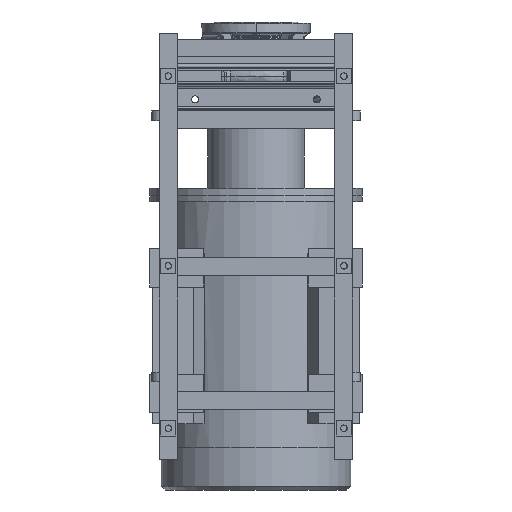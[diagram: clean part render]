
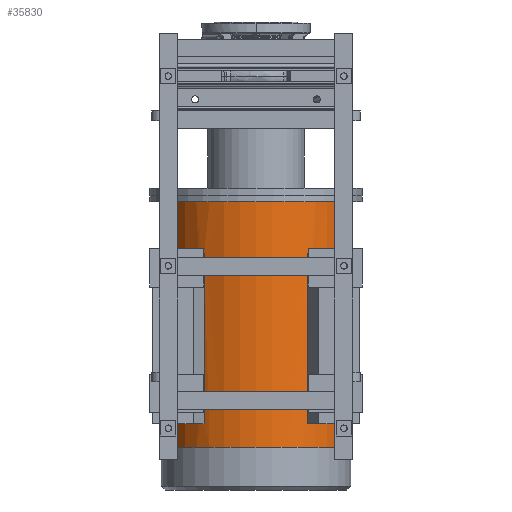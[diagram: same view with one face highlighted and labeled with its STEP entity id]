
A CAD part, front view. The second image highlights one B-rep face of the part: STEP entity #35830.
In plain terms, the highlighted cylindrical face has radius 240 mm (diameter 480 mm), a partial arc.
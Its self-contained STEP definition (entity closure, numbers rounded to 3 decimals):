
#1486 = DIRECTION ( 'NONE',  ( -1., 0., 0. ) ) ;
#2458 = CIRCLE ( 'NONE', #54440, 240. ) ;
#3269 = EDGE_CURVE ( 'NONE', #49336, #55333, #42335, .T. ) ;
#5260 = CARTESIAN_POINT ( 'NONE',  ( 0., 0., -898.5 ) ) ;
#5379 = CARTESIAN_POINT ( 'NONE',  ( -134.196, -198.976, -458.5 ) ) ;
#5531 = EDGE_CURVE ( 'NONE', #70357, #54059, #44890, .T. ) ;
#5630 = AXIS2_PLACEMENT_3D ( 'NONE', #46941, #11978, #72001 ) ;
#6897 = CARTESIAN_POINT ( 'NONE',  ( -240., 0., -324.5 ) ) ;
#7738 = AXIS2_PLACEMENT_3D ( 'NONE', #33796, #62828, #34291 ) ;
#8008 = ORIENTED_EDGE ( 'NONE', *, *, #41633, .T. ) ;
#8061 = ORIENTED_EDGE ( 'NONE', *, *, #49421, .F. ) ;
#8255 = DIRECTION ( 'NONE',  ( 0., 0., -1. ) ) ;
#8335 = AXIS2_PLACEMENT_3D ( 'NONE', #72209, #71458, #1486 ) ;
#9313 = CARTESIAN_POINT ( 'NONE',  ( -134.196, -198.976, -1069.5 ) ) ;
#10815 = CYLINDRICAL_SURFACE ( 'NONE', #66003, 240. ) ;
#11137 = DIRECTION ( 'NONE',  ( 1., 0., 0. ) ) ;
#11978 = DIRECTION ( 'NONE',  ( 0., 0., -1. ) ) ;
#12662 = LINE ( 'NONE', #34730, #67497 ) ;
#18171 = CARTESIAN_POINT ( 'NONE',  ( -148.813, -188.294, -898.5 ) ) ;
#18212 = DIRECTION ( 'NONE',  ( -1., 0., 0. ) ) ;
#18419 = AXIS2_PLACEMENT_3D ( 'NONE', #5260, #46069, #11137 ) ;
#19415 = CARTESIAN_POINT ( 'NONE',  ( -134.196, -198.976, -898.5 ) ) ;
#19623 = ORIENTED_EDGE ( 'NONE', *, *, #54055, .T. ) ;
#19705 = DIRECTION ( 'NONE',  ( 0., 0., -1. ) ) ;
#19932 = CARTESIAN_POINT ( 'NONE',  ( 240., 0., -1069.5 ) ) ;
#20719 = CARTESIAN_POINT ( 'NONE',  ( 0., 0., -1069.5 ) ) ;
#21725 = CARTESIAN_POINT ( 'NONE',  ( -240., 0., -958.5 ) ) ;
#22109 = CARTESIAN_POINT ( 'NONE',  ( 148.813, -188.294, -898.5 ) ) ;
#24323 = CARTESIAN_POINT ( 'NONE',  ( 0., 0., -458.5 ) ) ;
#24748 = VECTOR ( 'NONE', #8255, 1000. ) ;
#25930 = EDGE_CURVE ( 'NONE', #34497, #30008, #46975, .T. ) ;
#25931 = EDGE_CURVE ( 'NONE', #52547, #55333, #64476, .T. ) ;
#27040 = VECTOR ( 'NONE', #56863, 1000. ) ;
#27362 = ORIENTED_EDGE ( 'NONE', *, *, #57192, .F. ) ;
#28973 = AXIS2_PLACEMENT_3D ( 'NONE', #65618, #70423, #70920 ) ;
#30008 = VERTEX_POINT ( 'NONE', #22109 ) ;
#31899 = DIRECTION ( 'NONE',  ( 0., 0., 1. ) ) ;
#32806 = ORIENTED_EDGE ( 'NONE', *, *, #25930, .F. ) ;
#33122 = EDGE_CURVE ( 'NONE', #72869, #51264, #51235, .T. ) ;
#33796 = CARTESIAN_POINT ( 'NONE',  ( 0., 0., -898.5 ) ) ;
#33844 = CIRCLE ( 'NONE', #28973, 240. ) ;
#34291 = DIRECTION ( 'NONE',  ( -1., 0., 0. ) ) ;
#34497 = VERTEX_POINT ( 'NONE', #57560 ) ;
#34730 = CARTESIAN_POINT ( 'NONE',  ( 148.813, -188.294, -1069.5 ) ) ;
#34776 = LINE ( 'NONE', #19932, #24748 ) ;
#34967 = DIRECTION ( 'NONE',  ( 0., 0., -1. ) ) ;
#35830 = ADVANCED_FACE ( 'NONE', ( #72974, #41843, #54766 ), #10815, .T. ) ;
#40114 = CARTESIAN_POINT ( 'NONE',  ( 240., 0., -958.5 ) ) ;
#40115 = EDGE_LOOP ( 'NONE', ( #8061, #69732, #19623, #50588 ) ) ;
#40322 = ORIENTED_EDGE ( 'NONE', *, *, #25931, .T. ) ;
#41034 = ORIENTED_EDGE ( 'NONE', *, *, #57441, .T. ) ;
#41501 = CARTESIAN_POINT ( 'NONE',  ( -148.813, -188.294, -1069.5 ) ) ;
#41633 = EDGE_CURVE ( 'NONE', #75273, #58930, #2458, .T. ) ;
#41843 = FACE_BOUND ( 'NONE', #68613, .T. ) ;
#41879 = EDGE_LOOP ( 'NONE', ( #27362, #40322, #72256, #58114 ) ) ;
#42335 = LINE ( 'NONE', #41501, #61680 ) ;
#42768 = VECTOR ( 'NONE', #44008, 1000. ) ;
#43723 = LINE ( 'NONE', #9313, #42768 ) ;
#44008 = DIRECTION ( 'NONE',  ( 0., 0., 1. ) ) ;
#44890 = CIRCLE ( 'NONE', #8335, 240. ) ;
#46069 = DIRECTION ( 'NONE',  ( 0., 0., -1. ) ) ;
#46941 = CARTESIAN_POINT ( 'NONE',  ( 0., 0., -324.5 ) ) ;
#46975 = CIRCLE ( 'NONE', #7738, 240. ) ;
#47873 = VERTEX_POINT ( 'NONE', #5379 ) ;
#48463 = EDGE_CURVE ( 'NONE', #34497, #75273, #65201, .T. ) ;
#49186 = ORIENTED_EDGE ( 'NONE', *, *, #48463, .T. ) ;
#49336 = VERTEX_POINT ( 'NONE', #70346 ) ;
#49421 = EDGE_CURVE ( 'NONE', #72869, #70357, #34776, .T. ) ;
#50588 = ORIENTED_EDGE ( 'NONE', *, *, #5531, .F. ) ;
#50881 = LINE ( 'NONE', #54838, #27040 ) ;
#51235 = CIRCLE ( 'NONE', #5630, 240. ) ;
#51264 = VERTEX_POINT ( 'NONE', #6897 ) ;
#52547 = VERTEX_POINT ( 'NONE', #19415 ) ;
#54055 = EDGE_CURVE ( 'NONE', #51264, #54059, #50881, .T. ) ;
#54059 = VERTEX_POINT ( 'NONE', #21725 ) ;
#54440 = AXIS2_PLACEMENT_3D ( 'NONE', #24323, #58942, #18212 ) ;
#54766 = FACE_BOUND ( 'NONE', #41879, .T. ) ;
#54838 = CARTESIAN_POINT ( 'NONE',  ( -240., 0., -1069.5 ) ) ;
#54902 = CARTESIAN_POINT ( 'NONE',  ( 134.196, -198.976, -458.5 ) ) ;
#55333 = VERTEX_POINT ( 'NONE', #18171 ) ;
#56863 = DIRECTION ( 'NONE',  ( 0., 0., -1. ) ) ;
#57192 = EDGE_CURVE ( 'NONE', #52547, #47873, #43723, .T. ) ;
#57441 = EDGE_CURVE ( 'NONE', #58930, #30008, #12662, .T. ) ;
#57560 = CARTESIAN_POINT ( 'NONE',  ( 134.196, -198.976, -898.5 ) ) ;
#58114 = ORIENTED_EDGE ( 'NONE', *, *, #74207, .F. ) ;
#58930 = VERTEX_POINT ( 'NONE', #66327 ) ;
#58942 = DIRECTION ( 'NONE',  ( 0., 0., 1. ) ) ;
#60958 = DIRECTION ( 'NONE',  ( -1., 0., 0. ) ) ;
#61442 = CARTESIAN_POINT ( 'NONE',  ( 134.196, -198.976, -1069.5 ) ) ;
#61680 = VECTOR ( 'NONE', #64876, 1000. ) ;
#62498 = VECTOR ( 'NONE', #31899, 1000. ) ;
#62828 = DIRECTION ( 'NONE',  ( 0., 0., 1. ) ) ;
#64476 = CIRCLE ( 'NONE', #18419, 240. ) ;
#64876 = DIRECTION ( 'NONE',  ( 0., 0., -1. ) ) ;
#65201 = LINE ( 'NONE', #61442, #62498 ) ;
#65618 = CARTESIAN_POINT ( 'NONE',  ( 0., 0., -458.5 ) ) ;
#66003 = AXIS2_PLACEMENT_3D ( 'NONE', #20719, #19705, #60958 ) ;
#66327 = CARTESIAN_POINT ( 'NONE',  ( 148.813, -188.294, -458.5 ) ) ;
#67497 = VECTOR ( 'NONE', #34967, 1000. ) ;
#68613 = EDGE_LOOP ( 'NONE', ( #32806, #49186, #8008, #41034 ) ) ;
#69732 = ORIENTED_EDGE ( 'NONE', *, *, #33122, .T. ) ;
#70346 = CARTESIAN_POINT ( 'NONE',  ( -148.813, -188.294, -458.5 ) ) ;
#70357 = VERTEX_POINT ( 'NONE', #40114 ) ;
#70423 = DIRECTION ( 'NONE',  ( 0., 0., -1. ) ) ;
#70920 = DIRECTION ( 'NONE',  ( 1., 0., 0. ) ) ;
#71458 = DIRECTION ( 'NONE',  ( 0., 0., -1. ) ) ;
#72001 = DIRECTION ( 'NONE',  ( -1., 0., 0. ) ) ;
#72209 = CARTESIAN_POINT ( 'NONE',  ( 0., 0., -958.5 ) ) ;
#72256 = ORIENTED_EDGE ( 'NONE', *, *, #3269, .F. ) ;
#72869 = VERTEX_POINT ( 'NONE', #75372 ) ;
#72974 = FACE_OUTER_BOUND ( 'NONE', #40115, .T. ) ;
#74207 = EDGE_CURVE ( 'NONE', #47873, #49336, #33844, .T. ) ;
#75273 = VERTEX_POINT ( 'NONE', #54902 ) ;
#75372 = CARTESIAN_POINT ( 'NONE',  ( 240., 0., -324.5 ) ) ;
